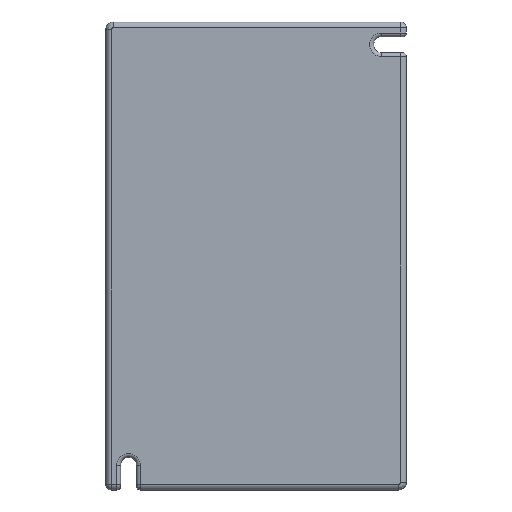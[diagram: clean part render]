
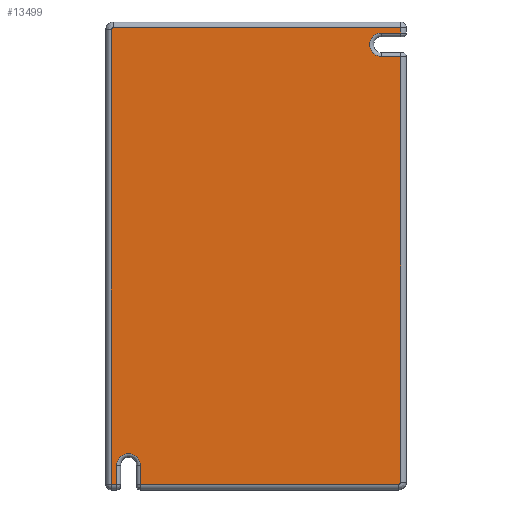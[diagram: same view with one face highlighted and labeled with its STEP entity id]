
A CAD part, front view. The second image highlights one B-rep face of the part: STEP entity #13499.
In plain terms, the highlighted planar face has unit normal (0, -1, 0).
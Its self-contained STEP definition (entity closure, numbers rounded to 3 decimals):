
#613=DIRECTION('',(1.,0.,0.));
#614=VECTOR('',#613,5.);
#615=CARTESIAN_POINT('',(33.,0.,58.6));
#616=LINE('',#615,#614);
#620=CARTESIAN_POINT('',(33.,0.,55.5));
#621=DIRECTION('',(0.,1.,0.));
#622=DIRECTION('',(0.,0.,-1.));
#623=AXIS2_PLACEMENT_3D('',#620,#621,#622);
#628=DIRECTION('',(-1.,0.,0.));
#629=VECTOR('',#628,5.);
#630=CARTESIAN_POINT('',(38.,0.,52.4));
#631=LINE('',#630,#629);
#635=DIRECTION('',(0.,0.,1.));
#636=VECTOR('',#635,111.9);
#637=CARTESIAN_POINT('',(38.,0.,-59.5));
#638=LINE('',#637,#636);
#642=CARTESIAN_POINT('',(37.5,0.,-59.5));
#643=DIRECTION('',(0.,1.,0.));
#644=DIRECTION('',(1.,0.,0.));
#645=AXIS2_PLACEMENT_3D('',#642,#643,#644);
#650=DIRECTION('',(1.,0.,0.));
#651=VECTOR('',#650,67.9);
#652=CARTESIAN_POINT('',(-30.4,0.,-60.));
#653=LINE('',#652,#651);
#657=DIRECTION('',(0.,0.,-1.));
#658=VECTOR('',#657,5.);
#659=CARTESIAN_POINT('',(-30.4,0.,-55.));
#660=LINE('',#659,#658);
#664=CARTESIAN_POINT('',(-33.5,0.,-55.));
#665=DIRECTION('',(0.,1.,0.));
#666=DIRECTION('',(-1.,0.,0.));
#667=AXIS2_PLACEMENT_3D('',#664,#665,#666);
#672=DIRECTION('',(0.,0.,1.));
#673=VECTOR('',#672,5.);
#674=CARTESIAN_POINT('',(-36.6,0.,-60.));
#675=LINE('',#674,#673);
#679=DIRECTION('',(1.,0.,0.));
#680=VECTOR('',#679,1.4);
#681=CARTESIAN_POINT('',(-38.,0.,-60.));
#682=LINE('',#681,#680);
#686=DIRECTION('',(0.,0.,-1.));
#687=VECTOR('',#686,119.5);
#688=CARTESIAN_POINT('',(-38.,0.,59.5));
#689=LINE('',#688,#687);
#693=CARTESIAN_POINT('',(-37.5,0.,59.5));
#694=DIRECTION('',(0.,1.,0.));
#695=DIRECTION('',(-1.,0.,0.));
#696=AXIS2_PLACEMENT_3D('',#693,#694,#695);
#701=DIRECTION('',(-1.,0.,0.));
#702=VECTOR('',#701,75.5);
#703=CARTESIAN_POINT('',(38.,0.,60.));
#704=LINE('',#703,#702);
#708=DIRECTION('',(0.,0.,1.));
#709=VECTOR('',#708,1.4);
#710=CARTESIAN_POINT('',(38.,0.,58.6));
#711=LINE('',#710,#709);
#12890=CARTESIAN_POINT('',(-37.5,0.,60.));
#12891=VERTEX_POINT('',#12890);
#12892=CARTESIAN_POINT('',(-38.,0.,59.5));
#12893=VERTEX_POINT('',#12892);
#12894=CARTESIAN_POINT('',(37.5,0.,-60.));
#12895=VERTEX_POINT('',#12894);
#12896=CARTESIAN_POINT('',(38.,0.,-59.5));
#12897=VERTEX_POINT('',#12896);
#12899=CARTESIAN_POINT('',(-38.,0.,-60.));
#12901=VERTEX_POINT('',#12899);
#12909=CARTESIAN_POINT('',(38.,0.,60.));
#12911=VERTEX_POINT('',#12909);
#12926=CARTESIAN_POINT('',(38.,0.,58.6));
#12927=VERTEX_POINT('',#12926);
#12930=CARTESIAN_POINT('',(33.,0.,58.6));
#12931=VERTEX_POINT('',#12930);
#12934=CARTESIAN_POINT('',(33.,0.,52.4));
#12935=VERTEX_POINT('',#12934);
#12938=CARTESIAN_POINT('',(38.,0.,52.4));
#12939=VERTEX_POINT('',#12938);
#12958=CARTESIAN_POINT('',(-30.4,0.,-60.));
#12959=VERTEX_POINT('',#12958);
#12962=CARTESIAN_POINT('',(-30.4,0.,-55.));
#12963=VERTEX_POINT('',#12962);
#12966=CARTESIAN_POINT('',(-36.6,0.,-55.));
#12967=VERTEX_POINT('',#12966);
#12970=CARTESIAN_POINT('',(-36.6,0.,-60.));
#12971=VERTEX_POINT('',#12970);
#13466=CARTESIAN_POINT('',(0.,0.,0.));
#13467=DIRECTION('',(0.,1.,0.));
#13468=DIRECTION('',(1.,0.,0.));
#13469=AXIS2_PLACEMENT_3D('',#13466,#13467,#13468);
#13470=PLANE('',#13469);
#13472=ORIENTED_EDGE('',*,*,#13471,.F.);
#13474=ORIENTED_EDGE('',*,*,#13473,.F.);
#13476=ORIENTED_EDGE('',*,*,#13475,.F.);
#13478=ORIENTED_EDGE('',*,*,#13477,.F.);
#13479=ORIENTED_EDGE('',*,*,#13011,.T.);
#13481=ORIENTED_EDGE('',*,*,#13480,.F.);
#13483=ORIENTED_EDGE('',*,*,#13482,.F.);
#13485=ORIENTED_EDGE('',*,*,#13484,.F.);
#13487=ORIENTED_EDGE('',*,*,#13486,.F.);
#13489=ORIENTED_EDGE('',*,*,#13488,.F.);
#13491=ORIENTED_EDGE('',*,*,#13490,.F.);
#13493=ORIENTED_EDGE('',*,*,#13492,.T.);
#13494=ORIENTED_EDGE('',*,*,#13445,.F.);
#13496=ORIENTED_EDGE('',*,*,#13495,.F.);
#13497=EDGE_LOOP('',(#13472,#13474,#13476,#13478,#13479,#13481,#13483,#13485,
#13487,#13489,#13491,#13493,#13494,#13496));
#13498=FACE_OUTER_BOUND('',#13497,.F.);
#624=CIRCLE('',#623,3.1);
#646=CIRCLE('',#645,0.5);
#668=CIRCLE('',#667,3.1);
#697=CIRCLE('',#696,0.5);
#13011=EDGE_CURVE('',#12897,#12895,#646,.T.);
#13445=EDGE_CURVE('',#12911,#12891,#704,.T.);
#13471=EDGE_CURVE('',#12931,#12927,#616,.T.);
#13473=EDGE_CURVE('',#12935,#12931,#624,.T.);
#13475=EDGE_CURVE('',#12939,#12935,#631,.T.);
#13477=EDGE_CURVE('',#12897,#12939,#638,.T.);
#13480=EDGE_CURVE('',#12959,#12895,#653,.T.);
#13482=EDGE_CURVE('',#12963,#12959,#660,.T.);
#13484=EDGE_CURVE('',#12967,#12963,#668,.T.);
#13486=EDGE_CURVE('',#12971,#12967,#675,.T.);
#13488=EDGE_CURVE('',#12901,#12971,#682,.T.);
#13490=EDGE_CURVE('',#12893,#12901,#689,.T.);
#13492=EDGE_CURVE('',#12893,#12891,#697,.T.);
#13495=EDGE_CURVE('',#12927,#12911,#711,.T.);
#13499=ADVANCED_FACE('',(#13498),#13470,.F.);
